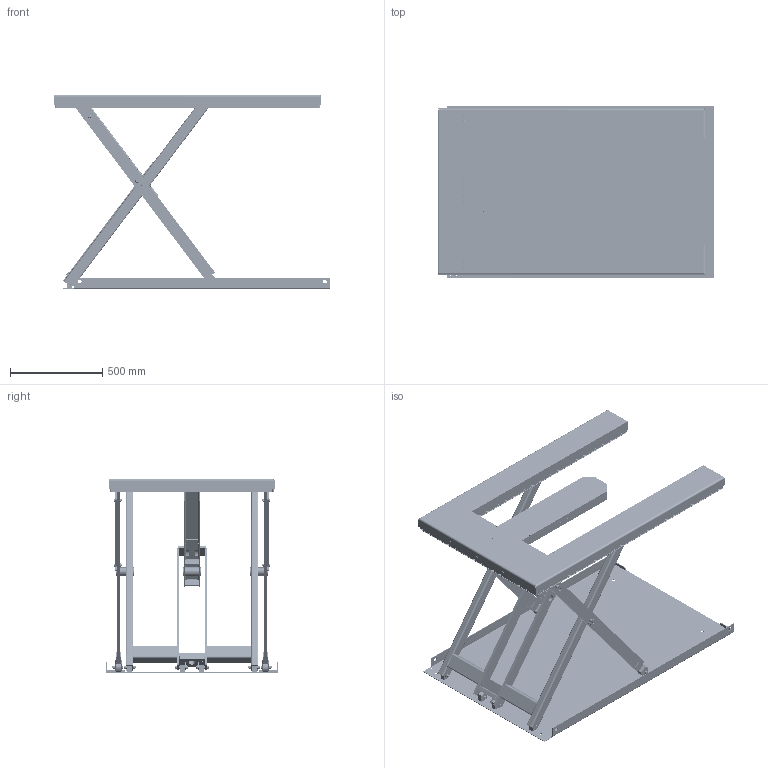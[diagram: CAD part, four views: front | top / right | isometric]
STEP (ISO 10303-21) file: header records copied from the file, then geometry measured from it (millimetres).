
FILE_DESCRIPTION(/* description */ ('TUB 600 H 1450x900'),/* implementation_level */ '2;1');
FILE_NAME(/* name */ 'C:\Autodesk_VaultWork\Ritningar\Exporterade modeller\TUB 600H - (33255)\33255_Elevated.stp',/* time_stamp */ '2017-02-07T08:57:47+01:00',/* author */ ('HANVI'),/* organization */ (''),/* preprocessor_version */ 'ST-DEVELOPER v16.5',/* originating_system */ 'Autodesk Inventor 2017',/* authorisation */ '');
FILE_SCHEMA (('AUTOMOTIVE_DESIGN { 1 0 10303 214 3 1 1 }'));
Products named in the file (76): 33255; 33247; 35887; 42974; 43469C; 517432; 33252C; 82170-1245; 43944C; 517434; 517433; 43342C; 517431; 43948C; 80030 - 236; 517441; 517435; 517435-1; 42947; 517439; 43959; 43921; 33253C; 33253C-1; 42949C; 69020; 42513; 42642; 70020; 70015; 42956; 33248; 33248-1; 33248-4; 44572; 33248-6-V; 33248-6; 44034; 33248-7; 45087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
Assembly tree (209 placements, depth 5):
  33255
    33247
      35887
      42974  x4
      43469C  x2
    517432
      33252C  x2
        82170-1245
      43944C  x2
      517434  x2
      517433
      43342C  x2
      517431
      43948C
      80030 - 236  x2
    517441
      517435
        517435-1
        42947  x2
        517439
        43959
      43921
    33253C  x2
      33253C-1
      42949C
    69020  x2
    42513  x8
    42642  x2
    70020  x2
    70015  x12
    42956  x2
    33248
      33248-1
      33248-4  x8
      84207  x8
      44572  x4
      45087  x4
      33248-6-V
      33248-6
      44034
      33248-7  x2
    42584  x4
    33257
      44510  x6
      42330  x8
      43056-1420  x2
      43056-132  x2
      43056-870
      43481  x8
      43056-1170  x2
      33990  x3
        33991
        44283
        44280
        44279
        Compression-Spring-SF-TF1272-SS1774-04-Lesjofors-STEP
        ISO 7089 - 5 - 140 HV
        84253
        44281
          44281-1
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Bounding box: 1499.99 x 930 x 1050.78 mm (x, y, z)
Volume: 20079117.5 mm3; surface area: 9412341.7 mm2
Topology: 242 solids, 242 shells, 8864 faces, 23376 edges, 15270 vertices
Faces by surface type: plane 4531, cylinder 2878, bspline 887, cone 463, torus 105
Full cylindrical faces by diameter (mm): 0.474 x3, 1 x6, 3 x6, 3.141 x6, 3.2 x6, 3.242 x6, 4 x21, 4.3 x6, 4.445 x6, 4.7 x4, 4.9 x3, 5 x6, 5.156 x6, 5.2 x9, 5.3 x6, 5.969 x6, 6 x8, 7.4 x1, 7.6 x6, 8 x9, 8.376 x16, 8.5 x8, 8.88 x8, 9.4 x4, 10 x37, 10.1 x2, 10.106 x2, 10.5 x39, 11 x17, 12 x10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
Entity records: 109960 total; most frequent: CARTESIAN_POINT 28086, ORIENTED_EDGE 16680, DIRECTION 16274, EDGE_CURVE 8339, VERTEX_POINT 5588, AXIS2_PLACEMENT_3D 5490, LINE 5294, VECTOR 5294
